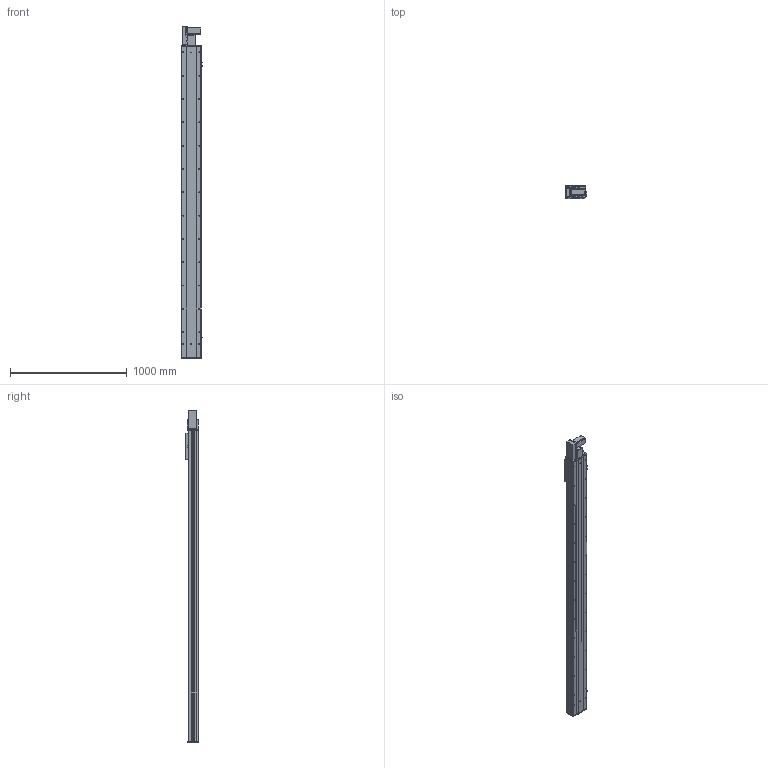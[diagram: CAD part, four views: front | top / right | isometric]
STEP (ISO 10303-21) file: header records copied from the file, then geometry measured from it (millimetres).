
FILE_DESCRIPTION (( 'STEP AP203' ), '1' );
FILE_NAME ('Y170CB-D105-S2350-BL-P400W.STEP', '2020-02-20T01:44:07', ( '微软用户' ), ( '微软中国' ), 'SwSTEP 2.0', 'SolidWorks 2017', '' );
FILE_SCHEMA (( 'CONFIG_CONTROL_DESIGN' ));
Length unit declared in the file: millimetre
Products named in the file (18): 70C-雄赽釱-奻-; 0B-萇儂楊擘啣; 0C--雄赽釱俋欶-170; san松下电机400不带刹车----; 70CB-詩湍--; Y70俋欶BR----; Y100-135俋离換覜ん--; 70CB-掛极-; Y170CB-陔俋离換覜結え---; --70CB --喘謫眊楊擘啣-; 70B喘謫眊----; 70CB-耜裔啣-; Y1埴倛裔; 70C--詩湍揤踡え-; B-源倛裔啣; Y170CB-D105-S2350-BL-P400W; 70CB--耜裔; 17B-耜蚾蟀諉啣----
Assembly tree (21 placements, depth 2):
  Y170CB-D105-S2350-BL-P400W
    B-源倛裔啣
    17B-耜蚾蟀諉啣----
    0B-萇儂楊擘啣
    san松下电机400不带刹车----
    Y70俋欶BR----
    70CB-掛极-
    --70CB --喘謫眊楊擘啣-
    70CB-耜裔啣-  x2
    70C--詩湍揤踡え-  x2
    70CB--耜裔
    70C-雄赽釱-奻-
    0C--雄赽釱俋欶-170
    70CB-詩湍--
    Y100-135俋离換覜ん--  x3
    Y170CB-陔俋离換覜結え---
    70B喘謫眊----
    Y1埴倛裔
Bounding box: 183.5 x 107 x 2847 mm (x, y, z)
Volume: 11852719.1 mm3; surface area: 4276678.7 mm2
Topology: 21 solids, 21 shells, 1063 faces, 2861 edges, 1898 vertices
Faces by surface type: cylinder 575, plane 464, cone 24
Entity records: 34072 total; most frequent: CARTESIAN_POINT 6276, DIRECTION 5542, ORIENTED_EDGE 5204, EDGE_CURVE 2602, AXIS2_PLACEMENT_3D 2044, VERTEX_POINT 1728, LINE 1454, VECTOR 1454
